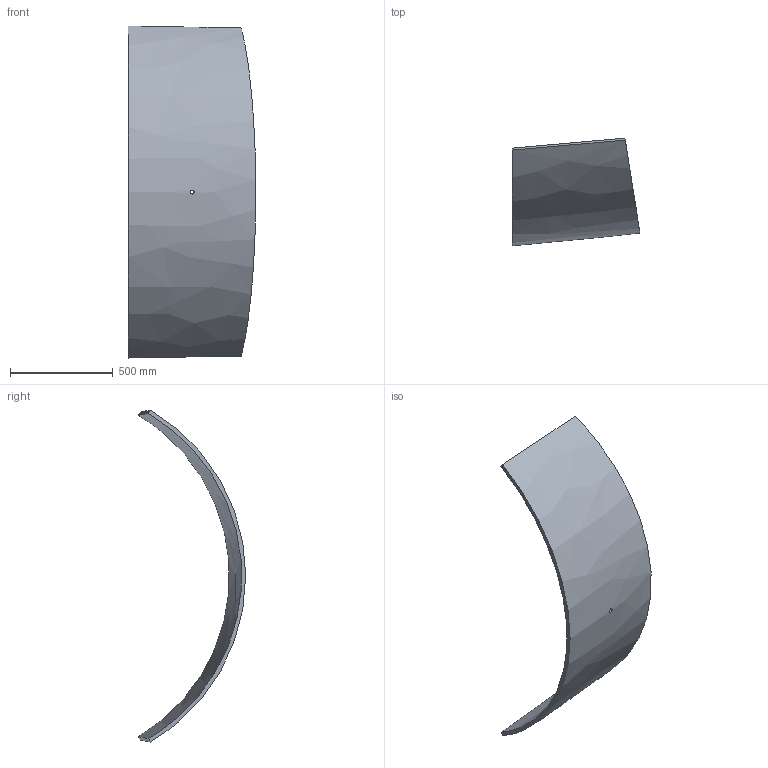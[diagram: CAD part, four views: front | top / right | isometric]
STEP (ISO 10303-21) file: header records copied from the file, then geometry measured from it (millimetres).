
FILE_DESCRIPTION (( 'STEP AP214' ), '1' );
FILE_NAME ('Section 13-B.STEP', '2025-01-09T19:43:25', ( '' ), ( '' ), 'SwSTEP 2.0', 'SolidWorks 2024', '' );
FILE_SCHEMA (( 'AUTOMOTIVE_DESIGN' ));
Length unit declared in the file: inch
Products named in the file (1): Section 13-B
Bounding box: 619.65 x 522.09 x 1613.47 mm (x, y, z)
Volume: 21760939.7 mm3; surface area: 2379535 mm2
Topology: 1 solids, 1 shells, 7 faces, 15 edges, 10 vertices
Faces by surface type: bspline 6, cylinder 1
Full cylindrical faces by diameter (mm): 19.447 x1
Entity records: 521 total; most frequent: CARTESIAN_POINT 384, ORIENTED_EDGE 28, EDGE_CURVE 14, B_SPLINE_CURVE_WITH_KNOTS 14, VERTEX_POINT 10, EDGE_LOOP 10, FACE_OUTER_BOUND 8, ADVANCED_FACE 7
